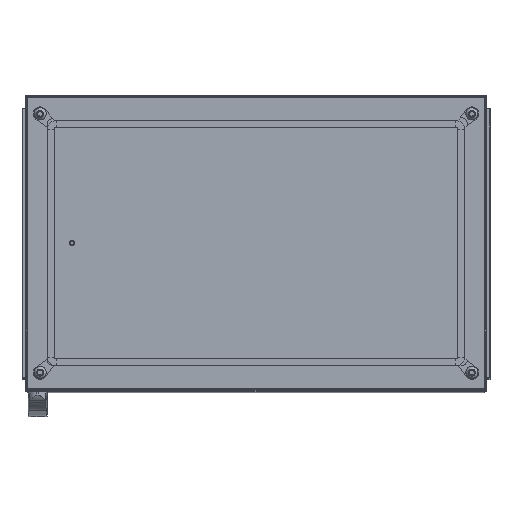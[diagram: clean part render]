
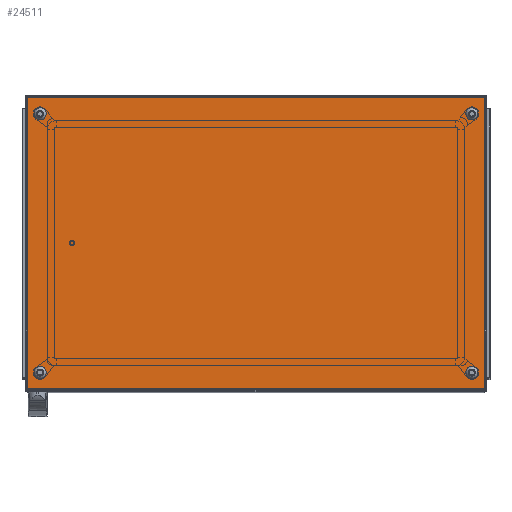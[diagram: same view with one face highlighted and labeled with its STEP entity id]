
A CAD part, top view. The second image highlights one B-rep face of the part: STEP entity #24511.
In plain terms, the highlighted planar face has unit normal (0, 0, 1).
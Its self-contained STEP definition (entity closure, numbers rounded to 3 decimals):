
#1253=CIRCLE('',#26381,6.);
#1254=CIRCLE('',#26382,6.);
#1255=CIRCLE('',#26383,6.);
#1256=CIRCLE('',#26384,6.);
#4857=ORIENTED_EDGE('',*,*,#10555,.F.);
#4858=ORIENTED_EDGE('',*,*,#10556,.F.);
#4859=ORIENTED_EDGE('',*,*,#10557,.F.);
#4860=ORIENTED_EDGE('',*,*,#10558,.F.);
#4861=ORIENTED_EDGE('',*,*,#10544,.T.);
#4862=ORIENTED_EDGE('',*,*,#10552,.T.);
#4863=ORIENTED_EDGE('',*,*,#10515,.F.);
#4864=ORIENTED_EDGE('',*,*,#10559,.F.);
#10515=EDGE_CURVE('',#13599,#13600,#16035,.T.);
#10544=EDGE_CURVE('',#13621,#13620,#16041,.T.);
#10552=EDGE_CURVE('',#13620,#13600,#16046,.T.);
#10555=EDGE_CURVE('',#13622,#13622,#1253,.T.);
#10556=EDGE_CURVE('',#13623,#13623,#1254,.T.);
#10557=EDGE_CURVE('',#13624,#13624,#1255,.T.);
#10558=EDGE_CURVE('',#13625,#13625,#1256,.T.);
#10559=EDGE_CURVE('',#13621,#13599,#16049,.T.);
#13599=VERTEX_POINT('',#38479);
#13600=VERTEX_POINT('',#38481);
#13620=VERTEX_POINT('',#38555);
#13621=VERTEX_POINT('',#38557);
#13622=VERTEX_POINT('',#38574);
#13623=VERTEX_POINT('',#38576);
#13624=VERTEX_POINT('',#38578);
#13625=VERTEX_POINT('',#38580);
#16035=LINE('',#38480,#18184);
#16041=LINE('',#38556,#18190);
#16046=LINE('',#38568,#18195);
#16049=LINE('',#38581,#18198);
#18184=VECTOR('',#30881,1000.);
#18190=VECTOR('',#30935,1000.);
#18195=VECTOR('',#30952,1000.);
#18198=VECTOR('',#30967,1000.);
#20031=EDGE_LOOP('',(#4857));
#20032=EDGE_LOOP('',(#4858));
#20033=EDGE_LOOP('',(#4859));
#20034=EDGE_LOOP('',(#4860));
#20035=EDGE_LOOP('',(#4861,#4862,#4863,#4864));
#22010=FACE_BOUND('',#20031,.T.);
#22011=FACE_BOUND('',#20032,.T.);
#22012=FACE_BOUND('',#20033,.T.);
#22013=FACE_BOUND('',#20034,.T.);
#22014=FACE_BOUND('',#20035,.T.);
#23646=PLANE('',#26380);
#24511=ADVANCED_FACE('',(#22010,#22011,#22012,#22013,#22014),#23646,.T.);
#26380=AXIS2_PLACEMENT_3D('',#38572,#30957,#30958);
#26381=AXIS2_PLACEMENT_3D('',#38573,#30959,#30960);
#26382=AXIS2_PLACEMENT_3D('',#38575,#30961,#30962);
#26383=AXIS2_PLACEMENT_3D('',#38577,#30963,#30964);
#26384=AXIS2_PLACEMENT_3D('',#38579,#30965,#30966);
#30881=DIRECTION('',(-1.,0.,0.));
#30935=DIRECTION('',(-1.,0.,0.));
#30952=DIRECTION('',(0.,-1.,0.));
#30957=DIRECTION('',(0.,0.,1.));
#30958=DIRECTION('',(1.,0.,0.));
#30959=DIRECTION('',(0.,0.,1.));
#30960=DIRECTION('',(1.,0.,0.));
#30961=DIRECTION('',(0.,0.,1.));
#30962=DIRECTION('',(1.,0.,0.));
#30963=DIRECTION('',(0.,0.,1.));
#30964=DIRECTION('',(1.,0.,0.));
#30965=DIRECTION('',(0.,0.,1.));
#30966=DIRECTION('',(1.,0.,0.));
#30967=DIRECTION('',(0.,-1.,0.));
#38479=CARTESIAN_POINT('',(396.5,-252.5,20.));
#38480=CARTESIAN_POINT('',(400.,-252.5,20.));
#38481=CARTESIAN_POINT('',(-396.5,-252.5,20.));
#38555=CARTESIAN_POINT('',(-396.5,252.5,20.));
#38556=CARTESIAN_POINT('',(400.,252.5,20.));
#38557=CARTESIAN_POINT('',(396.5,252.5,20.));
#38568=CARTESIAN_POINT('',(-396.5,255.5,20.));
#38572=CARTESIAN_POINT('',(-396.5,-252.5,20.));
#38573=CARTESIAN_POINT('',(374.5,-224.5,20.));
#38574=CARTESIAN_POINT('',(380.5,-224.5,20.));
#38575=CARTESIAN_POINT('',(-374.5,224.5,20.));
#38576=CARTESIAN_POINT('',(-368.5,224.5,20.));
#38577=CARTESIAN_POINT('',(374.5,224.5,20.));
#38578=CARTESIAN_POINT('',(380.5,224.5,20.));
#38579=CARTESIAN_POINT('',(-374.5,-224.5,20.));
#38580=CARTESIAN_POINT('',(-368.5,-224.5,20.));
#38581=CARTESIAN_POINT('',(396.5,255.5,20.));
